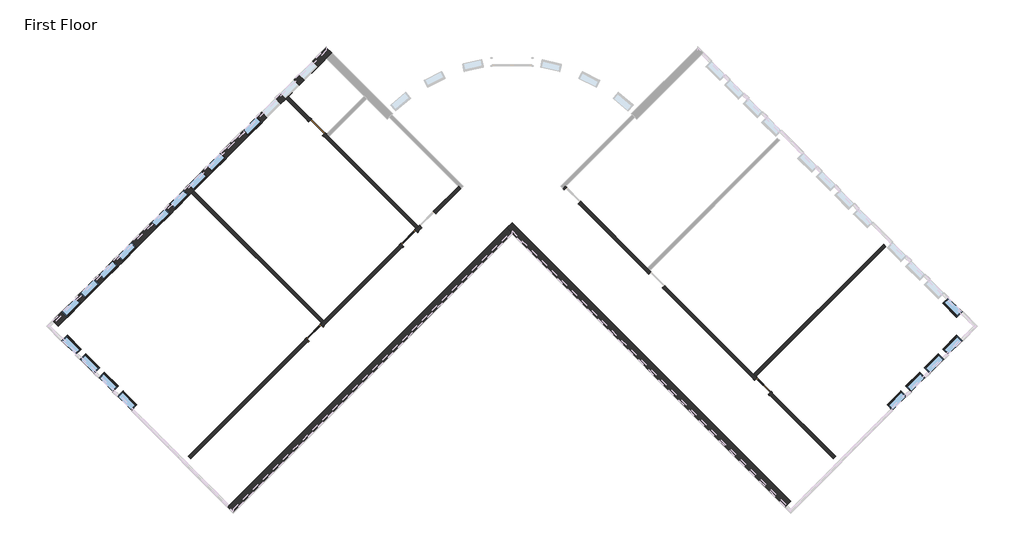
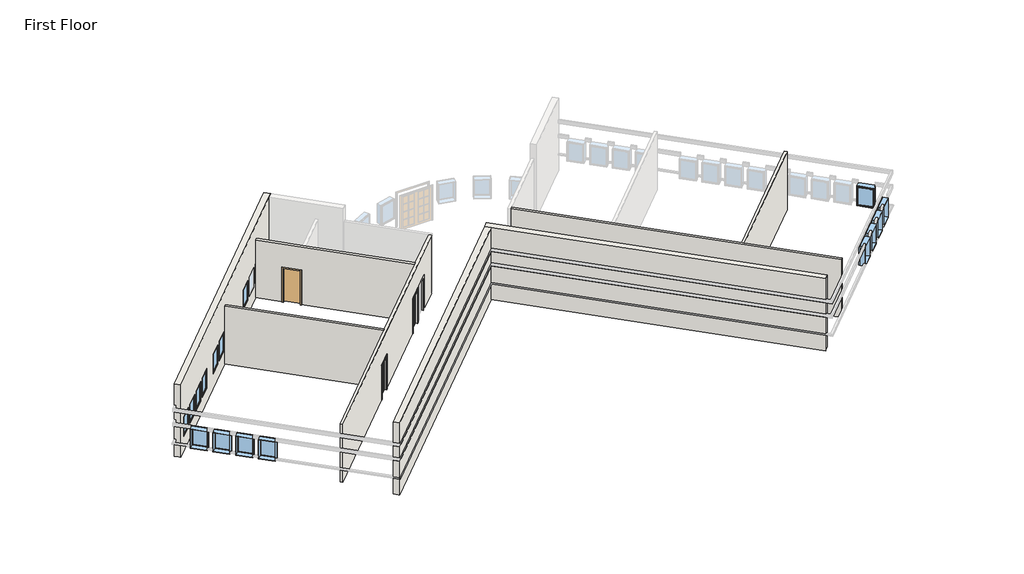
# One storey, part 1 of 3: 18 windows, 8 walls, 4 doors.
"""IFC4 building model written with IfcOpenShell, lengths in millimetres."""

from ifc_helpers import new_model, si_unit, origin, origin_with_axes, place, context, project, spatial, polyline, outline, extrude, faceted_brep, transform, mapped, element, save
from components import door_f9494b7c, door_b81abb0e, door_5f5b55da, window_15c49d37, window_0e2fc6ce

model = new_model("IFC4")

# Units and contexts
model_context = context("Model", 3, world=origin())
ifc_project = project(units=[si_unit("LENGTHUNIT", "METRE", prefix="MILLI")], contexts=[model_context])

# Site, building, storey
site = spatial("IfcSite", under=ifc_project)
building = spatial("IfcBuilding", under=site)
storey = spatial("IfcBuildingStorey", under=building, Name="First Floor", Elevation=0.0)

# Doors
placement = place(None, origin())
door_shape = door_f9494b7c(model_context)
element("IfcDoor", 1, ObjectType="Single-Flush : 36\" x 84\"", at=placement, inside=storey, context=model_context, shape_type="MappedRepresentation", body=[
    mapped(door_shape, transform((-11920.1265343, 7875.9588464, 0.0), x_axis=(0.7071067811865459, -0.7071067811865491, 0.0), y_axis=(0.7071067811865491, 0.7071067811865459, 0.0), z_axis=(0.0, 0.0, 1.0))),
])
door_2_shape = door_b81abb0e(model_context)
element("IfcDoor", 2, ObjectType="Single-Glass 1 : 36\" x 84\"", at=placement, inside=storey, context=model_context, shape_type="MappedRepresentation", body=[
    mapped(door_2_shape, transform((-12027.7718255, -1647.4849877, 0.0), x_axis=(0.7071067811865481, 0.7071067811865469, 0.0), y_axis=(-0.7071067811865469, 0.7071067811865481, 0.0), z_axis=(0.0, 0.0, 1.0))),
])
element("IfcDoor", 3, ObjectType="Single-Glass 1 : 36\" x 84\"", at=placement, inside=storey, context=model_context, shape_type="MappedRepresentation", body=[
    mapped(door_2_shape, transform((-7643.2795567, 2737.0072811, 0.0), x_axis=(0.7071067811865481, 0.7071067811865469, 0.0), y_axis=(-0.7071067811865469, 0.7071067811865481, 0.0), z_axis=(0.0, 0.0, 1.0))),
])
door_3_shape = door_5f5b55da(model_context)
element("IfcDoor", 4, ObjectType="Single-Glass 1 : 36\" x 84\"", at=placement, inside=storey, context=model_context, shape_type="MappedRepresentation", body=[
    mapped(door_3_shape, transform((8770.3835686, -4126.1534594, 0.0), x_axis=(-0.7071067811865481, 0.7071067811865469, 0.0), y_axis=(-0.7071067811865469, -0.7071067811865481, 0.0), z_axis=(0.0, 0.0, 1.0))),
])

# Walls
element("IfcWall", 5, ObjectType="Exterior - Split Face and CMU on Mtl. Stud", at=placement, inside=storey, context=model_context, shape_type="Brep", body=[
    faceted_brep([(10063.54045, -9480.6311716, 0.0), (-2868.0283643, 3450.9376427, 0.0), (-2868.0283643, 3450.9376427, 4572.0), (10063.54045, -9480.6311716, 4572.0), (9814.3383427, -9729.833279, 4572.0), (-2868.0283643, 2952.533428, 4572.0), (-3117.2304717, 3201.7355354, 4572.0), (-3117.2304717, 3201.7355354, 0.0), (-2868.0283643, 2952.533428, 0.0), (9814.3383427, -9729.833279, 0.0), (9814.3383427, -9729.833279, 1016.0), (-2868.0283643, 2952.533428, 1016.0), (-2933.1352212, 3017.6402849, 1016.0), (-2933.1352212, 3017.6402849, 1085.85), (-2868.0283643, 2952.533428, 1085.85), (9814.3383427, -9729.833279, 1085.85), (9814.3383427, -9729.833279, 2133.6), (-2868.0283643, 2952.533428, 2133.6), (-2933.1352212, 3017.6402849, 2133.6), (-2933.1352212, 3017.6402849, 2336.8), (-2868.0283643, 2952.533428, 2336.8), (9814.3383427, -9729.833279, 2336.8), (9814.3383427, -9729.833279, 3048.0), (-2868.0283643, 2952.533428, 3048.0), (-2933.1352212, 3017.6402849, 3048.0), (-2933.1352212, 3017.6402849, 3251.2), (-2868.0283643, 2952.533428, 3251.2), (9814.3383427, -9729.833279, 3251.2), (-3052.1236148, 3266.8423923, 0.0), (9879.4451996, -9664.7264221, 3251.2), (9879.4451996, -9664.7264221, 3048.0), (9879.4451996, -9664.7264221, 2336.8), (9879.4451996, -9664.7264221, 2133.6), (9879.4451996, -9664.7264221, 1085.85), (9879.4451996, -9664.7264221, 1016.0), (9879.4451996, -9664.7264221, 0.0), (-2868.0283643, 3082.7471418, 1085.85), (-2868.0283643, 3082.7471418, 1016.0), (-2868.0283643, 3082.7471418, 2133.6), (-2868.0283643, 3082.7471418, 2336.8), (-2868.0283643, 3082.7471418, 3048.0), (-2868.0283643, 3082.7471418, 3251.2)], [[[0, 1, 2, 3]], [[4, 5, 6, 7, 8, 9, 10, 11, 12, 13, 14, 15, 16, 17, 18, 19, 20, 21, 22, 23, 24, 25, 26, 27]], [[3, 2, 6, 5, 4]], [[2, 1, 28, 7, 6]], [[0, 3, 4, 27, 29, 30, 22, 21, 31, 32, 16, 15, 33, 34, 10, 9, 35]], [[1, 0, 35, 28]], [[35, 9, 8, 7, 28]], [[13, 36, 33, 15, 14]], [[34, 37, 12, 11, 10]], [[36, 37, 34, 33]], [[37, 36, 13, 12]], [[32, 38, 18, 17, 16]], [[19, 39, 31, 21, 20]], [[39, 38, 32, 31]], [[38, 39, 19, 18]], [[30, 40, 24, 23, 22]], [[25, 41, 29, 27, 26]], [[41, 40, 30, 29]], [[40, 41, 25, 24]]]),
])
element("IfcWall", 6, ObjectType="Exterior - Split Face and CMU on Mtl. Stud", at=placement, inside=storey, context=model_context, shape_type="Brep", body=[
    faceted_brep([(-3117.2304717, 3201.7355354, 0.0), (-15799.5971786, -9480.6311716, 0.0), (-16048.799286, -9729.833279, 0.0), (-16048.799286, -9729.833279, 1016.0), (-15983.6924291, -9664.7264221, 1016.0), (-15983.6924291, -9664.7264221, 1085.85), (-16048.799286, -9729.833279, 1085.85), (-16048.799286, -9729.833279, 2133.6), (-15983.6924291, -9664.7264221, 2133.6), (-15983.6924291, -9664.7264221, 2336.8), (-16048.799286, -9729.833279, 2336.8), (-16048.799286, -9729.833279, 3048.0), (-15983.6924291, -9664.7264221, 3048.0), (-15983.6924291, -9664.7264221, 3251.2), (-16048.799286, -9729.833279, 3251.2), (-16048.799286, -9729.833279, 4572.0), (-15799.5971786, -9480.6311716, 4572.0), (-3117.2304717, 3201.7355354, 4572.0), (-2868.0283643, 2952.533428, 4572.0), (-15799.5971786, -9979.0353863, 4572.0), (-15799.5971786, -9979.0353863, 3251.2), (-2868.0283643, 2952.533428, 3251.2), (-15799.5971786, -9979.0353863, 0.0), (-2868.0283643, 2952.533428, 0.0), (-2868.0283643, 2952.533428, 1016.0), (-15799.5971786, -9979.0353863, 1016.0), (-15799.5971786, -9979.0353863, 1085.85), (-2868.0283643, 2952.533428, 1085.85), (-2868.0283643, 2952.533428, 2133.6), (-15799.5971786, -9979.0353863, 2133.6), (-15799.5971786, -9979.0353863, 2336.8), (-2868.0283643, 2952.533428, 2336.8), (-2868.0283643, 2952.533428, 3048.0), (-15799.5971786, -9979.0353863, 3048.0), (-15864.7040355, -9913.9285294, 0.0), (-2933.1352212, 3017.6402849, 3251.2), (-2933.1352212, 3017.6402849, 3048.0), (-2933.1352212, 3017.6402849, 2336.8), (-2933.1352212, 3017.6402849, 2133.6), (-2933.1352212, 3017.6402849, 1085.85), (-2933.1352212, 3017.6402849, 1016.0), (-2933.1352212, 3017.6402849, 0.0), (-15799.5971786, -9848.8216726, 1085.85), (-15799.5971786, -9848.8216726, 1016.0), (-15799.5971786, -9848.8216726, 2133.6), (-15799.5971786, -9848.8216726, 2336.8), (-15799.5971786, -9848.8216726, 3048.0), (-15799.5971786, -9848.8216726, 3251.2)], [[[0, 1, 2, 3, 4, 5, 6, 7, 8, 9, 10, 11, 12, 13, 14, 15, 16, 17]], [[18, 19, 20, 21]], [[22, 23, 24, 25]], [[26, 27, 28, 29]], [[30, 31, 32, 33]], [[17, 16, 15, 19, 18]], [[19, 15, 14, 20]], [[2, 34, 22, 25, 3]], [[6, 26, 29, 7]], [[10, 30, 33, 11]], [[0, 17, 18, 21, 35, 36, 32, 31, 37, 38, 28, 27, 39, 40, 24, 23, 41]], [[2, 1, 0, 41, 34]], [[41, 23, 22, 34]], [[5, 42, 39, 27, 26, 6]], [[40, 43, 4, 3, 25, 24]], [[42, 43, 40, 39]], [[43, 42, 5, 4]], [[38, 44, 8, 7, 29, 28]], [[9, 45, 37, 31, 30, 10]], [[45, 44, 38, 37]], [[44, 45, 9, 8]], [[36, 46, 12, 11, 33, 32]], [[13, 47, 35, 21, 20, 14]], [[47, 46, 36, 35]], [[46, 47, 13, 12]]]),
])
element("IfcWall", 7, ObjectType="Exterior - Split Face and CMU on Mtl. Stud", at=placement, inside=storey, context=model_context, shape_type="Brep", body=[
    faceted_brep([(-23922.2388402, -1357.9895101, 0.0), (-17743.7048466, 4820.5444835, 0.0), (-17633.6967091, 4930.552621, 0.0), (-13359.2125777, 9205.0367523, 0.0), (-13249.2044403, 9315.0448898, 0.0), (-11489.0742405, 11075.1750895, 0.0), (-11239.8721332, 11324.3771969, 0.0), (-11239.8721332, 11324.3771969, 1016.0), (-11304.9789901, 11259.27034, 1016.0), (-11304.9789901, 11259.27034, 1085.85), (-11239.8721332, 11324.3771969, 1085.85), (-11239.8721332, 11324.3771969, 2133.6), (-11304.9789901, 11259.27034, 2133.6), (-11304.9789901, 11259.27034, 2336.8), (-11239.8721332, 11324.3771969, 2336.8), (-11239.8721332, 11324.3771969, 3048.0), (-11304.9789901, 11259.27034, 3048.0), (-11304.9789901, 11259.27034, 3251.2), (-11239.8721332, 11324.3771969, 3251.2), (-11239.8721332, 11324.3771969, 4572.0), (-11489.0742405, 11075.1750895, 4572.0), (-23922.2388402, -1357.9895101, 4572.0), (-23508.0245266, -943.7751965, 914.4), (-23508.0245266, -943.7751965, 2133.6), (-22861.4460859, -297.1967558, 2133.6), (-22861.4460859, -297.1967558, 914.4), (-22645.9199389, -81.6706089, 914.4), (-22645.9199389, -81.6706089, 2133.6), (-21999.3414982, 564.9078318, 2133.6), (-21999.3414982, 564.9078318, 914.4), (-20921.7107637, 1642.5385664, 914.4), (-20921.7107637, 1642.5385664, 2133.6), (-20275.132323, 2289.1170071, 2133.6), (-20275.132323, 2289.1170071, 914.4), (-21783.8153513, 780.4339787, 914.4), (-21783.8153513, 780.4339787, 2133.6), (-21137.2369106, 1427.0124195, 2133.6), (-21137.2369106, 1427.0124195, 914.4), (-11869.3770291, 10694.8723009, 2133.6), (-11869.3770291, 10694.8723009, 914.4), (-12515.9554698, 10048.2938602, 914.4), (-12515.9554698, 10048.2938602, 2133.6), (-12731.4816167, 9832.7677133, 2133.6), (-12731.4816167, 9832.7677133, 914.4), (-13378.0600575, 9186.1892726, 914.4), (-13378.0600575, 9186.1892726, 2133.6), (-13593.5862044, 8970.6631257, 2133.6), (-13593.5862044, 8970.6631257, 914.4), (-14240.1646451, 8324.084685, 914.4), (-14240.1646451, 8324.084685, 2133.6), (-14455.690792, 8108.5585381, 2133.6), (-14455.690792, 8108.5585381, 914.4), (-15102.2692327, 7461.9800974, 914.4), (-15102.2692327, 7461.9800974, 2133.6), (-19359.6176228, 3204.6317073, 914.4), (-19359.6176228, 3204.6317073, 2133.6), (-18713.0391821, 3851.210148, 2133.6), (-18713.0391821, 3851.210148, 914.4), (-18497.5130352, 4066.7362949, 914.4), (-18497.5130352, 4066.7362949, 2133.6), (-17850.9345944, 4713.3147356, 2133.6), (-17850.9345944, 4713.3147356, 914.4), (-17635.4084475, 4928.8408825, 914.4), (-17635.4084475, 4928.8408825, 2133.6), (-16988.8300068, 5575.4193232, 2133.6), (-16988.8300068, 5575.4193232, 914.4), (-16773.3038599, 5790.9454701, 914.4), (-16773.3038599, 5790.9454701, 2133.6), (-16126.7254192, 6437.5239109, 2133.6), (-16126.7254192, 6437.5239109, 914.4), (-24171.4409475, -1108.7874027, 4572.0), (-11489.0742405, 11573.5793042, 4572.0), (-11489.0742405, 11573.5793042, 3251.2), (-24171.4409475, -1108.7874027, 3251.2), (-11489.0742405, 11573.5793042, 0.0), (-24171.4409475, -1108.7874027, 0.0), (-24171.4409475, -1108.7874027, 1016.0), (-23757.2266339, -694.5730891, 1016.0), (-23757.2266339, -694.5730891, 914.4), (-23110.6481932, -47.9946484, 914.4), (-23110.6481932, -47.9946484, 1016.0), (-22895.1220463, 167.5314985, 1016.0), (-22895.1220463, 167.5314985, 914.4), (-22248.5436056, 814.1099392, 914.4), (-22248.5436056, 814.1099392, 1016.0), (-22033.0174587, 1029.6360861, 1016.0), (-22033.0174587, 1029.6360861, 914.4), (-21386.439018, 1676.2145268, 914.4), (-21386.439018, 1676.2145268, 1016.0), (-21170.9128711, 1891.7406737, 1016.0), (-21170.9128711, 1891.7406737, 914.4), (-20524.3344303, 2538.3191144, 914.4), (-20524.3344303, 2538.3191144, 1016.0), (-19608.8197301, 3453.8338146, 1016.0), (-19608.8197301, 3453.8338146, 914.4), (-18962.2412894, 4100.4122553, 914.4), (-18962.2412894, 4100.4122553, 1016.0), (-18746.7151425, 4315.9384023, 1016.0), (-18746.7151425, 4315.9384023, 914.4), (-18100.1367018, 4962.516843, 914.4), (-18100.1367018, 4962.516843, 1016.0), (-17884.6105549, 5178.0429899, 1016.0), (-17884.6105549, 5178.0429899, 914.4), (-17238.0321142, 5824.6214306, 914.4), (-17238.0321142, 5824.6214306, 1016.0), (-17022.5059673, 6040.1475775, 1016.0), (-17022.5059673, 6040.1475775, 914.4), (-16375.9275266, 6686.7260182, 914.4), (-16375.9275266, 6686.7260182, 1016.0), (-15351.4713401, 7711.1822047, 1016.0), (-15351.4713401, 7711.1822047, 914.4), (-14704.8928993, 8357.7606454, 914.4), (-14704.8928993, 8357.7606454, 1016.0), (-14489.3667524, 8573.2867923, 1016.0), (-14489.3667524, 8573.2867923, 914.4), (-13842.7883117, 9219.8652331, 914.4), (-13842.7883117, 9219.8652331, 1016.0), (-13627.2621648, 9435.39138, 1016.0), (-13627.2621648, 9435.39138, 914.4), (-12980.6837241, 10081.9698207, 914.4), (-12980.6837241, 10081.9698207, 1016.0), (-12765.1575772, 10297.4959676, 1016.0), (-12765.1575772, 10297.4959676, 914.4), (-12118.5791365, 10944.0744083, 914.4), (-12118.5791365, 10944.0744083, 1016.0), (-11489.0742405, 11573.5793042, 1016.0), (-23110.6481932, -47.9946484, 2133.6), (-23757.2266339, -694.5730891, 2133.6), (-23757.2266339, -694.5730891, 2336.8), (-24171.4409475, -1108.7874027, 2336.8), (-24171.4409475, -1108.7874027, 3048.0), (-11489.0742405, 11573.5793042, 3048.0), (-11489.0742405, 11573.5793042, 2336.8), (-12118.5791365, 10944.0744083, 2336.8), (-12118.5791365, 10944.0744083, 2133.6), (-12765.1575772, 10297.4959676, 2133.6), (-12765.1575772, 10297.4959676, 2336.8), (-12980.6837241, 10081.9698207, 2336.8), (-12980.6837241, 10081.9698207, 2133.6), (-13627.2621648, 9435.39138, 2133.6), (-13627.2621648, 9435.39138, 2336.8), (-13842.7883117, 9219.8652331, 2336.8), (-13842.7883117, 9219.8652331, 2133.6), (-14489.3667524, 8573.2867923, 2133.6), (-14489.3667524, 8573.2867923, 2336.8), (-14704.8928993, 8357.7606454, 2336.8), (-14704.8928993, 8357.7606454, 2133.6), (-15351.4713401, 7711.1822047, 2133.6), (-15351.4713401, 7711.1822047, 2336.8), (-16375.9275266, 6686.7260182, 2336.8), (-16375.9275266, 6686.7260182, 2133.6), (-17022.5059673, 6040.1475775, 2133.6), (-17022.5059673, 6040.1475775, 2336.8), (-17238.0321142, 5824.6214306, 2336.8), (-17238.0321142, 5824.6214306, 2133.6), (-17884.6105549, 5178.0429899, 2133.6), (-17884.6105549, 5178.0429899, 2336.8), (-18100.1367018, 4962.516843, 2336.8), (-18100.1367018, 4962.516843, 2133.6), (-18746.7151425, 4315.9384023, 2133.6), (-18746.7151425, 4315.9384023, 2336.8), (-18962.2412894, 4100.4122553, 2336.8), (-18962.2412894, 4100.4122553, 2133.6), (-19608.8197301, 3453.8338146, 2133.6), (-19608.8197301, 3453.8338146, 2336.8), (-20524.3344303, 2538.3191144, 2336.8), (-20524.3344303, 2538.3191144, 2133.6), (-21170.9128711, 1891.7406737, 2133.6), (-21170.9128711, 1891.7406737, 2336.8), (-21386.439018, 1676.2145268, 2336.8), (-21386.439018, 1676.2145268, 2133.6), (-22033.0174587, 1029.6360861, 2133.6), (-22033.0174587, 1029.6360861, 2336.8), (-22248.5436056, 814.1099392, 2336.8), (-22248.5436056, 814.1099392, 2133.6), (-22895.1220463, 167.5314985, 2133.6), (-22895.1220463, 167.5314985, 2336.8), (-23110.6481932, -47.9946484, 2336.8), (-23757.2266339, -694.5730891, 1085.85), (-24171.4409475, -1108.7874027, 1085.85), (-24171.4409475, -1108.7874027, 2133.6), (-23110.6481932, -47.9946484, 1085.85), (-22895.1220463, 167.5314985, 1085.85), (-22248.5436056, 814.1099392, 1085.85), (-22033.0174587, 1029.6360861, 1085.85), (-21170.9128711, 1891.7406737, 1085.85), (-21386.439018, 1676.2145268, 1085.85), (-20524.3344303, 2538.3191144, 1085.85), (-19608.8197301, 3453.8338146, 1085.85), (-12765.1575772, 10297.4959676, 1085.85), (-12980.6837241, 10081.9698207, 1085.85), (-12118.5791365, 10944.0744083, 1085.85), (-11489.0742405, 11573.5793042, 2133.6), (-11489.0742405, 11573.5793042, 1085.85), (-13627.2621648, 9435.39138, 1085.85), (-13842.7883117, 9219.8652331, 1085.85), (-14489.3667524, 8573.2867923, 1085.85), (-14704.8928993, 8357.7606454, 1085.85), (-15351.4713401, 7711.1822047, 1085.85), (-16375.9275266, 6686.7260182, 1085.85), (-18962.2412894, 4100.4122553, 1085.85), (-18746.7151425, 4315.9384023, 1085.85), (-18100.1367018, 4962.516843, 1085.85), (-17884.6105549, 5178.0429899, 1085.85), (-17238.0321142, 5824.6214306, 1085.85), (-17022.5059673, 6040.1475775, 1085.85), (-11423.9673837, 11508.4724474, 0.0), (-24106.3340906, -1173.8942596, 3251.2), (-24106.3340906, -1173.8942596, 3048.0), (-24106.3340906, -1173.8942596, 2336.8), (-24106.3340906, -1173.8942596, 2133.6), (-24106.3340906, -1173.8942596, 1085.85), (-24106.3340906, -1173.8942596, 1016.0), (-24106.3340906, -1173.8942596, 0.0), (-23692.119777, -759.679946, 1016.0), (-23692.119777, -759.679946, 1085.85), (-23692.119777, -759.679946, 2133.6), (-23045.5413363, -113.1015053, 2133.6), (-23045.5413363, -113.1015053, 1085.85), (-23045.5413363, -113.1015053, 1016.0), (-22830.0151894, 102.4246416, 1016.0), (-22830.0151894, 102.4246416, 1085.85), (-22830.0151894, 102.4246416, 2133.6), (-22183.4367487, 749.0030823, 2133.6), (-22183.4367487, 749.0030823, 1085.85), (-22183.4367487, 749.0030823, 1016.0), (-21105.8060142, 1826.6338168, 1016.0), (-21105.8060142, 1826.6338168, 1085.85), (-21105.8060142, 1826.6338168, 2133.6), (-20459.2275735, 2473.2122576, 2133.6), (-20459.2275735, 2473.2122576, 1085.85), (-20459.2275735, 2473.2122576, 1016.0), (-21967.9106018, 964.5292292, 1016.0), (-21967.9106018, 964.5292292, 1085.85), (-21967.9106018, 964.5292292, 2133.6), (-21321.3321611, 1611.1076699, 2133.6), (-21321.3321611, 1611.1076699, 1085.85), (-21321.3321611, 1611.1076699, 1016.0), (-12053.4722796, 10878.9675514, 2133.6), (-12053.4722796, 10878.9675514, 1085.85), (-12053.4722796, 10878.9675514, 1016.0), (-12700.0507203, 10232.3891107, 1016.0), (-12700.0507203, 10232.3891107, 1085.85), (-12700.0507203, 10232.3891107, 2133.6), (-12915.5768672, 10016.8629638, 2133.6), (-12915.5768672, 10016.8629638, 1085.85), (-12915.5768672, 10016.8629638, 1016.0), (-13562.1553079, 9370.2845231, 1016.0), (-13562.1553079, 9370.2845231, 1085.85), (-13562.1553079, 9370.2845231, 2133.6), (-13777.6814548, 9154.7583762, 2133.6), (-13777.6814548, 9154.7583762, 1085.85), (-13777.6814548, 9154.7583762, 1016.0), (-14424.2598956, 8508.1799355, 1016.0), (-14424.2598956, 8508.1799355, 1085.85), (-14424.2598956, 8508.1799355, 2133.6), (-14639.7860425, 8292.6537886, 2133.6), (-14639.7860425, 8292.6537886, 1085.85), (-14639.7860425, 8292.6537886, 1016.0), (-15286.3644832, 7646.0753478, 1016.0), (-15286.3644832, 7646.0753478, 1085.85), (-15286.3644832, 7646.0753478, 2133.6), (-19543.7128733, 3388.7269578, 1016.0), (-19543.7128733, 3388.7269578, 1085.85), (-19543.7128733, 3388.7269578, 2133.6), (-18897.1344326, 4035.3053985, 2133.6), (-18897.1344326, 4035.3053985, 1085.85), (-18897.1344326, 4035.3053985, 1016.0), (-18681.6082856, 4250.8315454, 1016.0), (-18681.6082856, 4250.8315454, 1085.85), (-18681.6082856, 4250.8315454, 2133.6), (-18035.0298449, 4897.4099861, 2133.6), (-18035.0298449, 4897.4099861, 1085.85), (-18035.0298449, 4897.4099861, 1016.0), (-17819.503698, 5112.936133, 1016.0), (-17819.503698, 5112.936133, 1085.85), (-17819.503698, 5112.936133, 2133.6), (-17172.9252573, 5759.5145737, 2133.6), (-17172.9252573, 5759.5145737, 1085.85), (-17172.9252573, 5759.5145737, 1016.0), (-16957.3991104, 5975.0407206, 1016.0), (-16957.3991104, 5975.0407206, 1085.85), (-16957.3991104, 5975.0407206, 2133.6), (-16310.8206697, 6621.6191613, 2133.6), (-16310.8206697, 6621.6191613, 1085.85), (-16310.8206697, 6621.6191613, 1016.0), (-11489.0742405, 11443.3655905, 1085.85), (-11489.0742405, 11443.3655905, 1016.0), (-23692.119777, -759.679946, 2133.6), (-23692.119777, -759.679946, 2336.8), (-23045.5413363, -113.1015053, 2133.6), (-23045.5413363, -113.1015053, 2336.8), (-22830.0151894, 102.4246416, 2336.8), (-22830.0151894, 102.4246416, 2133.6), (-22183.4367487, 749.0030823, 2133.6), (-22183.4367487, 749.0030823, 2336.8), (-21967.9106018, 964.5292292, 2336.8), (-21967.9106018, 964.5292292, 2133.6), (-21321.3321611, 1611.1076699, 2133.6), (-21321.3321611, 1611.1076699, 2336.8), (-21105.8060142, 1826.6338168, 2336.8), (-21105.8060142, 1826.6338168, 2133.6), (-20459.2275735, 2473.2122576, 2133.6), (-20459.2275735, 2473.2122576, 2336.8), (-19543.7128733, 3388.7269578, 2336.8), (-19543.7128733, 3388.7269578, 2133.6), (-18897.1344326, 4035.3053985, 2133.6), (-18897.1344326, 4035.3053985, 2336.8), (-18681.6082856, 4250.8315454, 2336.8), (-18681.6082856, 4250.8315454, 2133.6), (-18035.0298449, 4897.4099861, 2133.6), (-18035.0298449, 4897.4099861, 2336.8), (-17819.503698, 5112.936133, 2336.8), (-17819.503698, 5112.936133, 2133.6), (-17172.9252573, 5759.5145737, 2133.6), (-17172.9252573, 5759.5145737, 2336.8), (-16957.3991104, 5975.0407206, 2336.8), (-16957.3991104, 5975.0407206, 2133.6), (-16310.8206697, 6621.6191613, 2133.6), (-16310.8206697, 6621.6191613, 2336.8), (-15286.3644832, 7646.0753478, 2336.8), (-15286.3644832, 7646.0753478, 2133.6), (-14639.7860425, 8292.6537886, 2133.6), (-14639.7860425, 8292.6537886, 2336.8), (-14424.2598956, 8508.1799355, 2336.8), (-14424.2598956, 8508.1799355, 2133.6), (-13777.6814548, 9154.7583762, 2133.6), (-13777.6814548, 9154.7583762, 2336.8), (-13562.1553079, 9370.2845231, 2336.8), (-13562.1553079, 9370.2845231, 2133.6), (-12915.5768672, 10016.8629638, 2133.6), (-12915.5768672, 10016.8629638, 2336.8), (-12700.0507203, 10232.3891107, 2336.8), (-12700.0507203, 10232.3891107, 2133.6), (-12053.4722796, 10878.9675514, 2133.6), (-12053.4722796, 10878.9675514, 2336.8), (-11489.0742405, 11443.3655905, 2133.6), (-11489.0742405, 11443.3655905, 2336.8), (-11489.0742405, 11443.3655905, 3048.0), (-11489.0742405, 11443.3655905, 3251.2)], [[[0, 1, 2, 3, 4, 5, 6, 7, 8, 9, 10, 11, 12, 13, 14, 15, 16, 17, 18, 19, 20, 21], [22, 23, 24, 25], [26, 27, 28, 29], [30, 31, 32, 33], [34, 35, 36, 37], [38, 39, 40, 41], [42, 43, 44, 45], [46, 47, 48, 49], [50, 51, 52, 53], [54, 55, 56, 57], [58, 59, 60, 61], [62, 63, 64, 65], [66, 67, 68, 69]], [[70, 71, 72, 73]], [[74, 75, 76, 77, 78, 79, 80, 81, 82, 83, 84, 85, 86, 87, 88, 89, 90, 91, 92, 93, 94, 95, 96, 97, 98, 99, 100, 101, 102, 103, 104, 105, 106, 107, 108, 109, 110, 111, 112, 113, 114, 115, 116, 117, 118, 119, 120, 121, 122, 123, 124, 125]], [[126, 127, 128, 129, 130, 131, 132, 133, 134, 135, 136, 137, 138, 139, 140, 141, 142, 143, 144, 145, 146, 147, 148, 149, 150, 151, 152, 153, 154, 155, 156, 157, 158, 159, 160, 161, 162, 163, 164, 165, 166, 167, 168, 169, 170, 171, 172, 173, 174, 175, 176, 177]], [[127, 178, 179, 180]], [[181, 126, 175, 182]], [[183, 174, 171, 184]], [[167, 185, 186, 170]], [[187, 166, 163, 188]], [[135, 189, 190, 138]], [[191, 134, 192, 193]], [[139, 194, 195, 142]], [[143, 196, 197, 146]], [[147, 198, 199, 150]], [[200, 162, 159, 201]], [[202, 158, 155, 203]], [[204, 154, 151, 205]], [[21, 20, 19, 71, 70]], [[71, 19, 18, 72]], [[6, 206, 74, 125, 7]], [[10, 193, 192, 11]], [[14, 132, 131, 15]], [[0, 21, 70, 73, 207, 208, 130, 129, 209, 210, 180, 179, 211, 212, 76, 75, 213]], [[6, 5, 4, 3, 2, 1, 0, 213, 206]], [[213, 75, 74, 206]], [[23, 22, 78, 77, 214, 215, 178, 127, 216]], [[79, 78, 22, 25]], [[25, 24, 217, 126, 181, 218, 219, 80, 79]], [[127, 126, 217, 24, 23, 216]], [[27, 26, 82, 81, 220, 221, 182, 175, 222]], [[83, 82, 26, 29]], [[29, 28, 223, 174, 183, 224, 225, 84, 83]], [[175, 174, 223, 28, 27, 222]], [[31, 30, 90, 89, 226, 227, 185, 167, 228]], [[91, 90, 30, 33]], [[33, 32, 229, 166, 187, 230, 231, 92, 91]], [[167, 166, 229, 32, 31, 228]], [[35, 34, 86, 85, 232, 233, 184, 171, 234]], [[87, 86, 34, 37]], [[37, 36, 235, 170, 186, 236, 237, 88, 87]], [[171, 170, 235, 36, 35, 234]], [[39, 38, 238, 134, 191, 239, 240, 124, 123]], [[40, 39, 123, 122]], [[41, 40, 122, 121, 241, 242, 189, 135, 243]], [[38, 41, 243, 135, 134, 238]], [[43, 42, 244, 138, 190, 245, 246, 120, 119]], [[44, 43, 119, 118]], [[45, 44, 118, 117, 247, 248, 194, 139, 249]], [[42, 45, 249, 139, 138, 244]], [[47, 46, 250, 142, 195, 251, 252, 116, 115]], [[48, 47, 115, 114]], [[49, 48, 114, 113, 253, 254, 196, 143, 255]], [[46, 49, 255, 143, 142, 250]], [[51, 50, 256, 146, 197, 257, 258, 112, 111]], [[52, 51, 111, 110]], [[53, 52, 110, 109, 259, 260, 198, 147, 261]], [[50, 53, 261, 147, 146, 256]], [[55, 54, 94, 93, 262, 263, 188, 163, 264]], [[95, 94, 54, 57]], [[57, 56, 265, 162, 200, 266, 267, 96, 95]], [[163, 162, 265, 56, 55, 264]], [[59, 58, 98, 97, 268, 269, 201, 159, 270]], [[99, 98, 58, 61]], [[61, 60, 271, 158, 202, 272, 273, 100, 99]], [[159, 158, 271, 60, 59, 270]], [[63, 62, 102, 101, 274, 275, 203, 155, 276]], [[103, 102, 62, 65]], [[65, 64, 277, 154, 204, 278, 279, 104, 103]], [[155, 154, 277, 64, 63, 276]], [[67, 66, 106, 105, 280, 281, 205, 151, 282]], [[107, 106, 66, 69]], [[69, 68, 283, 150, 199, 284, 285, 108, 107]], [[151, 150, 283, 68, 67, 282]], [[215, 211, 179, 178]], [[212, 214, 77, 76]], [[211, 215, 214, 212]], [[221, 218, 181, 182]], [[219, 220, 81, 80]], [[218, 221, 220, 219]], [[233, 224, 183, 184]], [[225, 232, 85, 84]], [[224, 233, 232, 225]], [[227, 236, 186, 185]], [[237, 226, 89, 88]], [[236, 227, 226, 237]], [[263, 230, 187, 188]], [[231, 262, 93, 92]], [[230, 263, 262, 231]], [[269, 266, 200, 201]], [[267, 268, 97, 96]], [[266, 269, 268, 267]], [[275, 272, 202, 203]], [[273, 274, 101, 100]], [[272, 275, 274, 273]], [[281, 278, 204, 205]], [[279, 280, 105, 104]], [[278, 281, 280, 279]], [[260, 284, 199, 198]], [[285, 259, 109, 108]], [[284, 260, 259, 285]], [[254, 257, 197, 196]], [[258, 253, 113, 112]], [[257, 254, 253, 258]], [[248, 251, 195, 194]], [[252, 247, 117, 116]], [[251, 248, 247, 252]], [[242, 245, 190, 189]], [[246, 241, 121, 120]], [[245, 242, 241, 246]], [[286, 239, 191, 193, 10, 9]], [[240, 287, 8, 7, 125, 124]], [[239, 286, 287, 240]], [[287, 286, 9, 8]], [[288, 127, 180, 210]], [[128, 289, 209, 129]], [[127, 288, 289, 128]], [[289, 288, 210, 209]], [[290, 126, 177, 291]], [[292, 176, 175, 293]], [[126, 290, 293, 175]], [[290, 291, 292, 293]], [[291, 177, 176, 292]], [[294, 174, 173, 295]], [[296, 172, 171, 297]], [[174, 294, 297, 171]], [[294, 295, 296, 297]], [[295, 173, 172, 296]], [[298, 170, 169, 299]], [[300, 168, 167, 301]], [[170, 298, 301, 167]], [[298, 299, 300, 301]], [[299, 169, 168, 300]], [[302, 166, 165, 303]], [[304, 164, 163, 305]], [[166, 302, 305, 163]], [[302, 303, 304, 305]], [[303, 165, 164, 304]], [[306, 162, 161, 307]], [[308, 160, 159, 309]], [[162, 306, 309, 159]], [[306, 307, 308, 309]], [[307, 161, 160, 308]], [[310, 158, 157, 311]], [[312, 156, 155, 313]], [[158, 310, 313, 155]], [[310, 311, 312, 313]], [[311, 157, 156, 312]], [[314, 154, 153, 315]], [[316, 152, 151, 317]], [[154, 314, 317, 151]], [[314, 315, 316, 317]], [[315, 153, 152, 316]], [[318, 150, 149, 319]], [[320, 148, 147, 321]], [[150, 318, 321, 147]], [[318, 319, 320, 321]], [[319, 149, 148, 320]], [[322, 146, 145, 323]], [[324, 144, 143, 325]], [[146, 322, 325, 143]], [[322, 323, 324, 325]], [[323, 145, 144, 324]], [[326, 142, 141, 327]], [[328, 140, 139, 329]], [[142, 326, 329, 139]], [[326, 327, 328, 329]], [[327, 141, 140, 328]], [[330, 138, 137, 331]], [[332, 136, 135, 333]], [[138, 330, 333, 135]], [[330, 331, 332, 333]], [[331, 137, 136, 332]], [[334, 134, 133, 335]], [[134, 334, 336, 12, 11, 192]], [[334, 335, 337, 336]], [[335, 133, 132, 14, 13, 337]], [[336, 337, 13, 12]], [[208, 338, 16, 15, 131, 130]], [[17, 339, 207, 73, 72, 18]], [[339, 338, 208, 207]], [[338, 339, 17, 16]]]),
])
element("IfcWall", 8, ObjectType="Interior - 6 1/8\" Partition (2-hr)", at=placement, inside=storey, context=model_context, shape_type="Brep", body=[
    faceted_brep([(-7264.9862676, 3005.2924327, 0.0), (-7049.4601207, 3220.8185796, 0.0), (-7049.4601207, 3220.8185796, 2133.6), (-6402.88168, 3867.3970204, 2133.6), (-6402.88168, 3867.3970204, 0.0), (-5238.5804157, 5031.6982846, 0.0), (-5238.5804157, 5031.6982846, 3657.6), (-17775.2535253, -7504.974825, 3657.6), (-17775.2535253, -7504.974825, 0.0), (-12296.0569771, -2025.7782768, 0.0), (-12296.0569771, -2025.7782768, 2133.6), (-11649.4785364, -1379.1998361, 2133.6), (-11649.4785364, -1379.1998361, 0.0), (-7911.5647083, 2358.713992, 0.0), (-7911.5647083, 2358.713992, 2133.6), (-7264.9862676, 3005.2924327, 2133.6), (-7159.4682582, 3330.8267171, 2133.6), (-7159.4682582, 3330.8267171, 0.0), (-7212.2272629, 3278.0677124, 0.0), (-7322.2354004, 3168.0595749, 0.0), (-7374.9944051, 3115.3005702, 0.0), (-7374.9944051, 3115.3005702, 2133.6), (-8021.5728458, 2468.7221295, 2133.6), (-8021.5728458, 2468.7221295, 0.0), (-11596.7195317, -1106.4245564, 0.0), (-11706.7276692, -1216.4326939, 0.0), (-11759.4866739, -1269.1916986, 0.0), (-11759.4866739, -1269.1916986, 2133.6), (-12406.0651146, -1915.7701393, 2133.6), (-12406.0651146, -1915.7701393, 0.0), (-17885.2616628, -7394.9666875, 0.0), (-17885.2616628, -7394.9666875, 3657.6), (-11706.7276692, -1216.4326939, 3657.6), (-11596.7195317, -1106.4245564, 3657.6), (-7322.2354004, 3168.0595749, 3657.6), (-7212.2272629, 3278.0677124, 3657.6), (-5348.5885532, 5141.7064221, 3657.6), (-5348.5885532, 5141.7064221, 0.0), (-6512.8898174, 3977.4051578, 0.0), (-6512.8898174, 3977.4051578, 2133.6)], [[[0, 1, 2, 3, 4, 5, 6, 7, 8, 9, 10, 11, 12, 13, 14, 15]], [[16, 17, 18, 19, 20, 21, 22, 23, 24, 25, 26, 27, 28, 29, 30, 31, 32, 33, 34, 35, 36, 37, 38, 39]], [[20, 19, 18, 17, 1, 0]], [[9, 8, 30, 29]], [[13, 12, 26, 25, 24, 23]], [[38, 37, 5, 4]], [[7, 6, 36, 35, 34, 33, 32, 31]], [[8, 7, 31, 30]], [[6, 5, 37, 36]], [[27, 26, 12, 11]], [[28, 27, 11, 10]], [[29, 28, 10, 9]], [[21, 20, 0, 15]], [[22, 21, 15, 14]], [[23, 22, 14, 13]], [[2, 1, 17, 16]], [[3, 2, 16, 39]], [[4, 3, 39, 38]]]),
])
element("IfcWall", 9, ObjectType="Interior - 6 1/8\" Partition (2-hr)", at=placement, inside=storey, context=model_context, shape_type="Brep", body=[
    faceted_brep([(-7212.2272629, 3278.0677124, 0.0), (-11379.066103, 7444.9065526, 0.0), (-11489.0742405, 7554.9146901, 0.0), (-11541.8332452, 7607.6736948, 0.0), (-11541.8332452, 7607.6736948, 2133.6), (-12188.411686, 8254.2521355, 2133.6), (-12188.411686, 8254.2521355, 0.0), (-13249.2044403, 9315.0448898, 0.0), (-13249.2044403, 9315.0448898, 3657.6), (-11489.0742405, 7554.9146901, 3657.6), (-11379.066103, 7444.9065526, 3657.6), (-7212.2272629, 3278.0677124, 3657.6), (-11651.8413827, 7497.6655573, 2133.6), (-11651.8413827, 7497.6655573, 0.0), (-7322.2354004, 3168.0595749, 0.0), (-7322.2354004, 3168.0595749, 3657.6), (-13359.2125777, 9205.0367523, 3657.6), (-13359.2125777, 9205.0367523, 0.0), (-12298.4198234, 8144.243998, 0.0), (-12298.4198234, 8144.243998, 2133.6)], [[[0, 1, 2, 3, 4, 5, 6, 7, 8, 9, 10, 11]], [[12, 13, 14, 15, 16, 17, 18, 19]], [[14, 13, 3, 2, 1, 0]], [[18, 17, 7, 6]], [[11, 10, 9, 8, 16, 15]], [[8, 7, 17, 16]], [[0, 11, 15, 14]], [[4, 3, 13, 12]], [[5, 4, 12, 19]], [[6, 5, 19, 18]]]),
])
element("IfcWall", 10, ObjectType="Interior - 6 1/8\" Partition (2-hr)", at=placement, inside=storey, context=model_context, shape_type="SweptSolid", body=[
    extrude(outline(polyline([(-17633.6967091, 4930.552621), (-11596.7195317, -1106.4245564), (-11706.7276692, -1216.4326939), (-17743.7048466, 4820.5444835), (-17633.6967091, 4930.552621)])), origin_with_axes(), (0.0, 0.0, 1.0), 3657.6),
])
element("IfcWall", 11, ObjectType="Interior - 6 1/8\" Partition (2-hr)", at=placement, inside=storey, context=model_context, shape_type="Brep", body=[
    faceted_brep([(8502.098417, -3747.8601703, 2133.6), (8502.098417, -3747.8601703, 0.0), (8449.3394123, -3695.1011656, 0.0), (8339.3312748, -3585.0930281, 0.0), (4225.2514393, 528.9868073, 0.0), (4225.2514393, 528.9868073, 2133.6), (3578.6729986, 1175.5652481, 2133.6), (3578.6729986, 1175.5652481, 0.0), (3525.9139939, 1228.3242528, 0.0), (3415.9058564, 1338.3323903, 0.0), (311.86927, 4442.3689766, 0.0), (311.86927, 4442.3689766, 2133.6), (-334.7091707, 5088.9474174, 2133.6), (-334.7091707, 5088.9474174, 0.0), (-387.4681754, 5141.7064221, 0.0), (-387.4681754, 5141.7064221, 3657.6), (3415.9058564, 1338.3323903, 3657.6), (3525.9139939, 1228.3242528, 3657.6), (8339.3312748, -3585.0930281, 3657.6), (8449.3394123, -3695.1011656, 3657.6), (12149.2049342, -7394.9666875, 3657.6), (12149.2049342, -7394.9666875, 0.0), (9148.6768577, -4394.438611, 0.0), (9148.6768577, -4394.438611, 2133.6), (4115.2433018, 418.9786699, 0.0), (8392.0902795, -3857.8683078, 0.0), (8392.0902795, -3857.8683078, 2133.6), (9038.6687202, -4504.4467485, 2133.6), (9038.6687202, -4504.4467485, 0.0), (12039.1967967, -7504.974825, 0.0), (12039.1967967, -7504.974825, 3657.6), (-497.4763129, 5031.6982846, 3657.6), (-497.4763129, 5031.6982846, 0.0), (-444.7173082, 4978.9392799, 0.0), (-444.7173082, 4978.9392799, 2133.6), (201.8611325, 4332.3608392, 2133.6), (201.8611325, 4332.3608392, 0.0), (3468.6648611, 1065.5571106, 0.0), (3468.6648611, 1065.5571106, 2133.6), (4115.2433018, 418.9786699, 2133.6)], [[[0, 1, 2, 3, 4, 5, 6, 7, 8, 9, 10, 11, 12, 13, 14, 15, 16, 17, 18, 19, 20, 21, 22, 23]], [[24, 25, 26, 27, 28, 29, 30, 31, 32, 33, 34, 35, 36, 37, 38, 39]], [[14, 13, 33, 32]], [[10, 9, 8, 7, 37, 36]], [[4, 3, 2, 1, 25, 24]], [[22, 21, 29, 28]], [[20, 19, 18, 17, 16, 15, 31, 30]], [[15, 14, 32, 31]], [[21, 20, 30, 29]], [[34, 33, 13, 12]], [[35, 34, 12, 11]], [[36, 35, 11, 10]], [[38, 37, 7, 6]], [[39, 38, 6, 5]], [[24, 39, 5, 4]], [[26, 25, 1, 0]], [[27, 26, 0, 23]], [[28, 27, 23, 22]]]),
])
element("IfcWall", 12, ObjectType="Interior - 6 1/8\" Partition (2-hr)", at=placement, inside=storey, context=model_context, shape_type="SweptSolid", body=[
    extrude(outline(polyline([(8339.3312748, -3585.0930281), (14376.3084522, 2451.8841493), (14486.3165897, 2341.8760118), (8449.3394123, -3695.1011656), (8339.3312748, -3585.0930281)])), origin_with_axes(), (0.0, 0.0, 1.0), 3657.6),
])

# Windows
window_shape = window_15c49d37(model_context)
element("IfcWindow", 13, ObjectType="Fixed : 36\" x 48\"", at=placement, inside=storey, context=model_context, shape_type="MappedRepresentation", body=[
    mapped(window_shape, transform((-23336.2771283, -522.8256908, 0.0), x_axis=(-0.7071067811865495, -0.7071067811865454, 0.0), y_axis=(0.7071067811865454, -0.7071067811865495, 0.0), z_axis=(0.0, 0.0, 1.0))),
])
element("IfcWindow", 14, ObjectType="Fixed : 36\" x 48\"", at=placement, inside=storey, context=model_context, shape_type="MappedRepresentation", body=[
    mapped(window_shape, transform((-22474.1725406, 339.2788968, 0.0), x_axis=(-0.7071067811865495, -0.7071067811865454, 0.0), y_axis=(0.7071067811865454, -0.7071067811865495, 0.0), z_axis=(0.0, 0.0, 1.0))),
])
element("IfcWindow", 15, ObjectType="Fixed : 36\" x 48\"", at=placement, inside=storey, context=model_context, shape_type="MappedRepresentation", body=[
    mapped(window_shape, transform((-21612.067953, 1201.3834844, 0.0), x_axis=(-0.7071067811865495, -0.7071067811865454, 0.0), y_axis=(0.7071067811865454, -0.7071067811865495, 0.0), z_axis=(0.0, 0.0, 1.0))),
])
element("IfcWindow", 16, ObjectType="Fixed : 36\" x 48\"", at=placement, inside=storey, context=model_context, shape_type="MappedRepresentation", body=[
    mapped(window_shape, transform((-20749.9633654, 2063.488072, 0.0), x_axis=(-0.7071067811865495, -0.7071067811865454, 0.0), y_axis=(0.7071067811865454, -0.7071067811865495, 0.0), z_axis=(0.0, 0.0, 1.0))),
])
element("IfcWindow", 17, ObjectType="Fixed : 36\" x 48\"", at=placement, inside=storey, context=model_context, shape_type="MappedRepresentation", body=[
    mapped(window_shape, transform((-19187.8702245, 3625.5812129, 0.0), x_axis=(-0.7071067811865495, -0.7071067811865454, 0.0), y_axis=(0.7071067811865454, -0.7071067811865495, 0.0), z_axis=(0.0, 0.0, 1.0))),
])
element("IfcWindow", 18, ObjectType="Fixed : 36\" x 48\"", at=placement, inside=storey, context=model_context, shape_type="MappedRepresentation", body=[
    mapped(window_shape, transform((-18325.7656368, 4487.6858006, 0.0), x_axis=(-0.7071067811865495, -0.7071067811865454, 0.0), y_axis=(0.7071067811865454, -0.7071067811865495, 0.0), z_axis=(0.0, 0.0, 1.0))),
])
element("IfcWindow", 19, ObjectType="Fixed : 36\" x 48\"", at=placement, inside=storey, context=model_context, shape_type="MappedRepresentation", body=[
    mapped(window_shape, transform((-17463.6610492, 5349.7903882, 0.0), x_axis=(-0.7071067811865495, -0.7071067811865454, 0.0), y_axis=(0.7071067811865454, -0.7071067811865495, 0.0), z_axis=(0.0, 0.0, 1.0))),
])
element("IfcWindow", 20, ObjectType="Fixed : 36\" x 48\"", at=placement, inside=storey, context=model_context, shape_type="MappedRepresentation", body=[
    mapped(window_shape, transform((-16601.5564616, 6211.8949758, 0.0), x_axis=(-0.7071067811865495, -0.7071067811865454, 0.0), y_axis=(0.7071067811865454, -0.7071067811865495, 0.0), z_axis=(0.0, 0.0, 1.0))),
])
element("IfcWindow", 21, ObjectType="Fixed : 36\" x 48\"", at=placement, inside=storey, context=model_context, shape_type="MappedRepresentation", body=[
    mapped(window_shape, transform((17600.2203996, -2193.1533294, 0.0), x_axis=(0.7071067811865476, 0.7071067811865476, 0.0), y_axis=(-0.7071067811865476, 0.7071067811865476, 0.0), z_axis=(0.0, 0.0, 1.0))),
])
element("IfcWindow", 22, ObjectType="Fixed : 36\" x 48\"", at=placement, inside=storey, context=model_context, shape_type="MappedRepresentation", body=[
    mapped(window_shape, transform((16738.115812, -3055.257917, 0.0), x_axis=(0.7071067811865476, 0.7071067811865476, 0.0), y_axis=(-0.7071067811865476, 0.7071067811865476, 0.0), z_axis=(0.0, 0.0, 1.0))),
])
element("IfcWindow", 23, ObjectType="Fixed : 36\" x 48\"", at=placement, inside=storey, context=model_context, shape_type="MappedRepresentation", body=[
    mapped(window_shape, transform((15876.0112244, -3917.3625046, 0.0), x_axis=(0.7071067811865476, 0.7071067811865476, 0.0), y_axis=(-0.7071067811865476, 0.7071067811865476, 0.0), z_axis=(0.0, 0.0, 1.0))),
])
element("IfcWindow", 24, ObjectType="Fixed : 36\" x 48\"", at=placement, inside=storey, context=model_context, shape_type="MappedRepresentation", body=[
    mapped(window_shape, transform((15013.9066368, -4779.4670922, 0.0), x_axis=(0.7071067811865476, 0.7071067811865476, 0.0), y_axis=(-0.7071067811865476, 0.7071067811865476, 0.0), z_axis=(0.0, 0.0, 1.0))),
])
window_2_shape = window_0e2fc6ce(model_context)
element("IfcWindow", 25, ObjectType="Fixed : 36\" x 48\"", at=placement, inside=storey, context=model_context, shape_type="MappedRepresentation", body=[
    mapped(window_2_shape, transform((-14876.6402977, 7936.8111398, 0.0), x_axis=(0.7071067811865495, 0.7071067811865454, 0.0), y_axis=(-0.7071067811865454, 0.7071067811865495, 0.0), z_axis=(0.0, 0.0, 1.0))),
])
element("IfcWindow", 26, ObjectType="Fixed : 36\" x 48\"", at=placement, inside=storey, context=model_context, shape_type="MappedRepresentation", body=[
    mapped(window_2_shape, transform((-23336.2771283, -2193.1533294, 0.0), x_axis=(-0.7071067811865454, 0.7071067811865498, 0.0), y_axis=(-0.7071067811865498, -0.7071067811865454, 0.0), z_axis=(0.0, 0.0, 1.0))),
])
element("IfcWindow", 27, ObjectType="Fixed : 36\" x 48\"", at=placement, inside=storey, context=model_context, shape_type="MappedRepresentation", body=[
    mapped(window_2_shape, transform((-22474.1725406, -3055.257917, 0.0), x_axis=(-0.7071067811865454, 0.7071067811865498, 0.0), y_axis=(-0.7071067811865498, -0.7071067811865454, 0.0), z_axis=(0.0, 0.0, 1.0))),
])
element("IfcWindow", 28, ObjectType="Fixed : 36\" x 48\"", at=placement, inside=storey, context=model_context, shape_type="MappedRepresentation", body=[
    mapped(window_2_shape, transform((-21612.067953, -3917.3625046, 0.0), x_axis=(-0.7071067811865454, 0.7071067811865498, 0.0), y_axis=(-0.7071067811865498, -0.7071067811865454, 0.0), z_axis=(0.0, 0.0, 1.0))),
])
element("IfcWindow", 29, ObjectType="Fixed : 36\" x 48\"", at=placement, inside=storey, context=model_context, shape_type="MappedRepresentation", body=[
    mapped(window_2_shape, transform((-20749.9633654, -4779.4670922, 0.0), x_axis=(-0.7071067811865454, 0.7071067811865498, 0.0), y_axis=(-0.7071067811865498, -0.7071067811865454, 0.0), z_axis=(0.0, 0.0, 1.0))),
])
element("IfcWindow", 30, ObjectType="Fixed : 36\" x 48\"", at=placement, inside=storey, context=model_context, shape_type="MappedRepresentation", body=[
    mapped(window_2_shape, transform((17600.2203996, -522.8256908, 0.0), x_axis=(0.7071067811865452, -0.7071067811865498, 0.0), y_axis=(0.7071067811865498, 0.7071067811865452, 0.0), z_axis=(0.0, 0.0, 1.0))),
])

save(model, "model.ifc")
